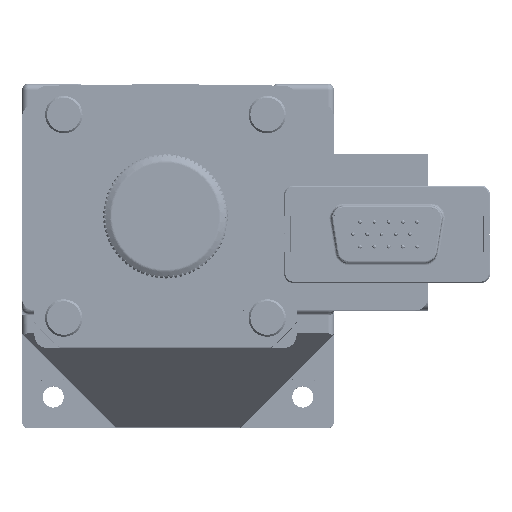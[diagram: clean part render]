
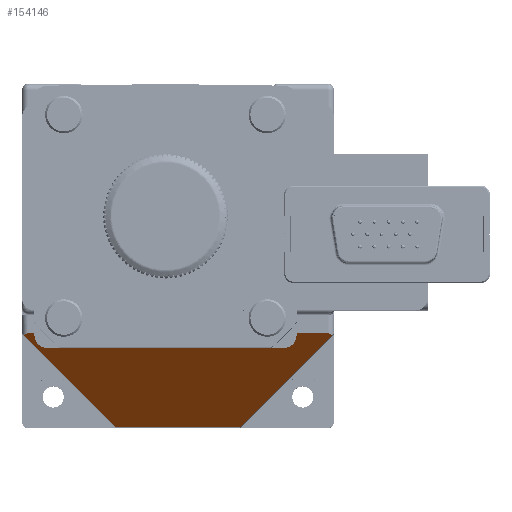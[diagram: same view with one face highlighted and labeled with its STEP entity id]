
A CAD part, top view. The second image highlights one B-rep face of the part: STEP entity #154146.
In plain terms, the highlighted planar face has unit normal (0, -0.707, 0.707) as drawn and (0.707, -0.707, 0) by its records, which use the part's own axes.
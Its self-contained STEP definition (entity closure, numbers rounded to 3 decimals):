
#5184 = CARTESIAN_POINT ( 'NONE',  ( 59.897, 14.897, 24.517 ) ) ;
#12591 = CARTESIAN_POINT ( 'NONE',  ( 45., 0., 25. ) ) ;
#14103 = CARTESIAN_POINT ( 'NONE',  ( 20., -25., -15. ) ) ;
#17523 = CARTESIAN_POINT ( 'NONE',  ( 59.707, 14.707, 24.707 ) ) ;
#23591 = CARTESIAN_POINT ( 'NONE',  ( 59.707, 14.707, -24.707 ) ) ;
#32676 = ORIENTED_EDGE ( 'NONE', *, *, #165797, .F. ) ;
#41438 = AXIS2_PLACEMENT_3D ( 'NONE', #198690, #265006, #129576 ) ;
#45633 = CARTESIAN_POINT ( 'NONE',  ( 60., 15., 24. ) ) ;
#49917 = CARTESIAN_POINT ( 'NONE',  ( 59.707, 14.707, 24.707 ) ) ;
#55611 = CARTESIAN_POINT ( 'NONE',  ( 60., 15., -25. ) ) ;
#57329 = DIRECTION ( 'NONE',  ( 0., 0., 1. ) ) ;
#60487 = EDGE_CURVE ( 'NONE', #211387, #144129, #166320, .T. ) ;
#76024 = CARTESIAN_POINT ( 'NONE',  ( 60., 15., 24. ) ) ;
#77229 = DIRECTION ( 'NONE',  ( -0.577, -0.577, 0.577 ) ) ;
#77365 = CARTESIAN_POINT ( 'NONE',  ( 60., 15., -25. ) ) ;
#80538 = EDGE_CURVE ( 'NONE', #92280, #174499, #87118, .T. ) ;
#86001 = VECTOR ( 'NONE', #57329, 1000. ) ;
#87118 =( BOUNDED_CURVE ( )  B_SPLINE_CURVE ( 3, ( #45633, #91780, #5184, #49917 ),
 .UNSPECIFIED., .F., .T. ) 
 B_SPLINE_CURVE_WITH_KNOTS ( ( 4, 4 ),
 ( 3.142, 3.927 ),
 .UNSPECIFIED. ) 
 CURVE ( )  GEOMETRIC_REPRESENTATION_ITEM ( )  RATIONAL_B_SPLINE_CURVE ( ( 1., 0.949, 0.949, 1. ) ) 
 REPRESENTATION_ITEM ( '' )  );
#90763 = ORIENTED_EDGE ( 'NONE', *, *, #267120, .F. ) ;
#91780 = CARTESIAN_POINT ( 'NONE',  ( 60., 15., 24.269 ) ) ;
#92280 = VERTEX_POINT ( 'NONE', #76024 ) ;
#98206 = ORIENTED_EDGE ( 'NONE', *, *, #80538, .T. ) ;
#99172 = LINE ( 'NONE', #12591, #86001 ) ;
#104417 = EDGE_LOOP ( 'NONE', ( #90763, #259612, #180934, #98206, #210722, #32676 ) ) ;
#106089 = CARTESIAN_POINT ( 'NONE',  ( 45., 0., 10. ) ) ;
#106796 = VECTOR ( 'NONE', #233034, 1000. ) ;
#107328 = CARTESIAN_POINT ( 'NONE',  ( 60., 15., -24.269 ) ) ;
#110759 = FACE_OUTER_BOUND ( 'NONE', #104417, .T. ) ;
#129576 = DIRECTION ( 'NONE',  ( -0.707, -0.707, 0. ) ) ;
#144129 = VERTEX_POINT ( 'NONE', #243230 ) ;
#154146 = ADVANCED_FACE ( 'NONE', ( #110759 ), #243320, .F. ) ;
#154844 = CARTESIAN_POINT ( 'NONE',  ( 59.897, 14.897, -24.517 ) ) ;
#165797 = EDGE_CURVE ( 'NONE', #247374, #188223, #99172, .T. ) ;
#166320 =( BOUNDED_CURVE ( )  B_SPLINE_CURVE ( 3, ( #23591, #154844, #107328, #239900 ),
 .UNSPECIFIED., .F., .T. ) 
 B_SPLINE_CURVE_WITH_KNOTS ( ( 4, 4 ),
 ( 2.356, 3.142 ),
 .UNSPECIFIED. ) 
 CURVE ( )  GEOMETRIC_REPRESENTATION_ITEM ( )  RATIONAL_B_SPLINE_CURVE ( ( 1., 0.949, 0.949, 1. ) ) 
 REPRESENTATION_ITEM ( '' )  );
#168432 = LINE ( 'NONE', #14103, #172928 ) ;
#171130 = CARTESIAN_POINT ( 'NONE',  ( 45., 0., -10. ) ) ;
#172928 = VECTOR ( 'NONE', #191420, 1000. ) ;
#174499 = VERTEX_POINT ( 'NONE', #17523 ) ;
#176916 = EDGE_CURVE ( 'NONE', #174499, #188223, #168432, .T. ) ;
#180934 = ORIENTED_EDGE ( 'NONE', *, *, #188051, .F. ) ;
#188051 = EDGE_CURVE ( 'NONE', #92280, #144129, #274901, .T. ) ;
#188223 = VERTEX_POINT ( 'NONE', #106089 ) ;
#191420 = DIRECTION ( 'NONE',  ( -0.577, -0.577, -0.577 ) ) ;
#198690 = CARTESIAN_POINT ( 'NONE',  ( 60., 15., -25. ) ) ;
#210722 = ORIENTED_EDGE ( 'NONE', *, *, #176916, .T. ) ;
#211387 = VERTEX_POINT ( 'NONE', #230343 ) ;
#228643 = LINE ( 'NONE', #55611, #229340 ) ;
#229340 = VECTOR ( 'NONE', #77229, 1000. ) ;
#230343 = CARTESIAN_POINT ( 'NONE',  ( 59.707, 14.707, -24.707 ) ) ;
#233034 = DIRECTION ( 'NONE',  ( 0., 0., -1. ) ) ;
#239900 = CARTESIAN_POINT ( 'NONE',  ( 60., 15., -24. ) ) ;
#243230 = CARTESIAN_POINT ( 'NONE',  ( 60., 15., -24. ) ) ;
#243320 = PLANE ( 'NONE',  #41438 ) ;
#247374 = VERTEX_POINT ( 'NONE', #171130 ) ;
#259612 = ORIENTED_EDGE ( 'NONE', *, *, #60487, .T. ) ;
#265006 = DIRECTION ( 'NONE',  ( -0.707, 0.707, 0. ) ) ;
#267120 = EDGE_CURVE ( 'NONE', #211387, #247374, #228643, .T. ) ;
#274901 = LINE ( 'NONE', #77365, #106796 ) ;
